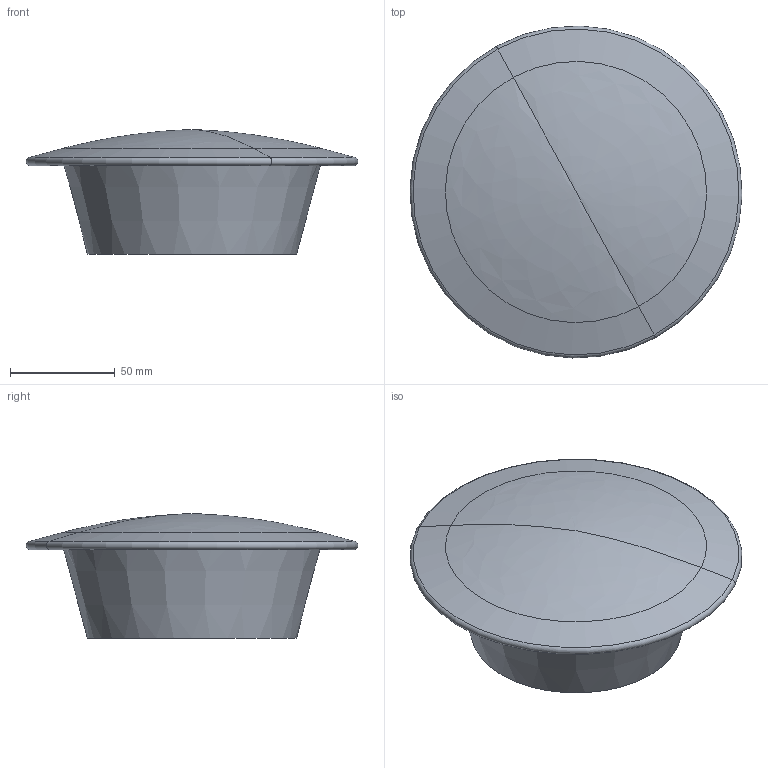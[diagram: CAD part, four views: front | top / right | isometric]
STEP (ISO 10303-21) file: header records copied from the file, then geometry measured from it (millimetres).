
FILE_DESCRIPTION(('CATIA V5 STEP Exchange'),'2;1');
FILE_NAME('C:\Documents and Settings\Andres\Escritorio\control4-1415-inicio-completo\Chapa-y-refuerzo.stp','2014-12-15T14:28:27+00:00',('none'),('none'),'CATIA Version 5 Release 20 SP 1 (IN-10)','CATIA V5 STEP AP203','none');
FILE_SCHEMA(('CONFIG_CONTROL_DESIGN'));
Length unit declared in the file: millimetre
Products named in the file (1): Chapa-y-refuerzo
Assembly tree (2 placements, depth 2):
  Chapa-y-refuerzo
    #58
    #207
Bounding box: 158.8 x 158.8 x 59.66 mm (x, y, z)
Surface area: 51349.7 mm2 (no closed solid volume)
Topology: 0 solids, 2 shells, 11 faces, 34 edges, 25 vertices
Faces by surface type: cone 6, torus 2, revolution 2, plane 1
Entity records: 446 total; most frequent: CARTESIAN_POINT 92, DIRECTION 52, ORIENTED_EDGE 41, AXIS2_PLACEMENT_3D 25, EDGE_CURVE 25, VERTEX_POINT 16, VECTOR 15, CIRCLE 15
